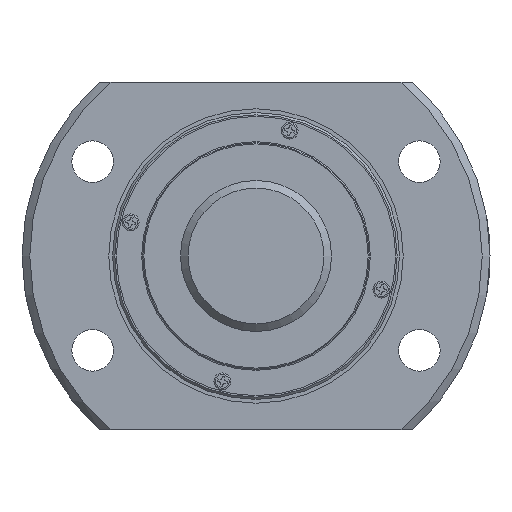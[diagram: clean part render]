
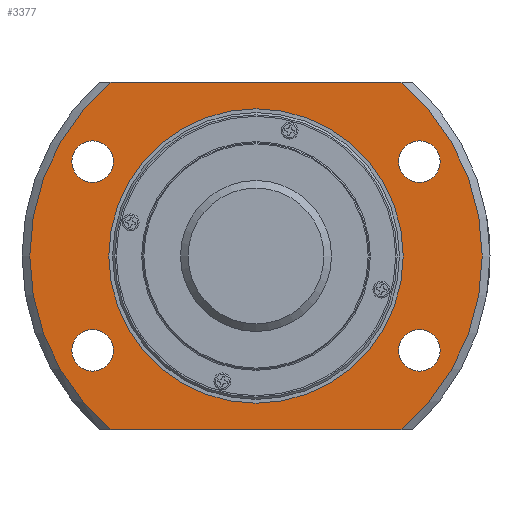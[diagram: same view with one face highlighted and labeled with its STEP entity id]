
A CAD part, left-side view. The second image highlights one B-rep face of the part: STEP entity #3377.
In plain terms, the highlighted planar face has unit normal (-1, 0, 0).
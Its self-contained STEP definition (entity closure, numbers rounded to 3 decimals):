
#37=LINE('',#5080,#365);
#38=LINE('',#5081,#366);
#365=VECTOR('',#4023,1000.);
#366=VECTOR('',#4024,1000.);
#721=PLANE('',#3628);
#887=ORIENTED_EDGE('',*,*,#1823,.T.);
#888=ORIENTED_EDGE('',*,*,#1824,.T.);
#889=ORIENTED_EDGE('',*,*,#1825,.T.);
#890=ORIENTED_EDGE('',*,*,#1826,.T.);
#891=ORIENTED_EDGE('',*,*,#1827,.T.);
#892=ORIENTED_EDGE('',*,*,#1818,.F.);
#893=ORIENTED_EDGE('',*,*,#1828,.T.);
#894=ORIENTED_EDGE('',*,*,#1821,.F.);
#895=ORIENTED_EDGE('',*,*,#1829,.T.);
#1818=EDGE_CURVE('',#2286,#2287,#2617,.T.);
#1821=EDGE_CURVE('',#2288,#2289,#2618,.T.);
#1823=EDGE_CURVE('',#2290,#2290,#2619,.T.);
#1824=EDGE_CURVE('',#2291,#2291,#2620,.T.);
#1825=EDGE_CURVE('',#2292,#2292,#2621,.T.);
#1826=EDGE_CURVE('',#2293,#2293,#2622,.T.);
#1827=EDGE_CURVE('',#2294,#2294,#2623,.T.);
#1828=EDGE_CURVE('',#2286,#2289,#37,.T.);
#1829=EDGE_CURVE('',#2288,#2287,#38,.T.);
#2286=VERTEX_POINT('',#5050);
#2287=VERTEX_POINT('',#5052);
#2288=VERTEX_POINT('',#5062);
#2289=VERTEX_POINT('',#5064);
#2290=VERTEX_POINT('',#5071);
#2291=VERTEX_POINT('',#5073);
#2292=VERTEX_POINT('',#5075);
#2293=VERTEX_POINT('',#5077);
#2294=VERTEX_POINT('',#5079);
#2617=CIRCLE('',#3625,29.967);
#2618=CIRCLE('',#3627,29.967);
#2619=CIRCLE('',#3629,19.5);
#2620=CIRCLE('',#3630,2.75);
#2621=CIRCLE('',#3631,2.75);
#2622=CIRCLE('',#3632,2.75);
#2623=CIRCLE('',#3633,2.75);
#2759=EDGE_LOOP('',(#887));
#2760=EDGE_LOOP('',(#888));
#2761=EDGE_LOOP('',(#889));
#2762=EDGE_LOOP('',(#890));
#2763=EDGE_LOOP('',(#891));
#2764=EDGE_LOOP('',(#892,#893,#894,#895));
#3043=FACE_BOUND('',#2759,.T.);
#3044=FACE_BOUND('',#2760,.T.);
#3045=FACE_BOUND('',#2761,.T.);
#3046=FACE_BOUND('',#2762,.T.);
#3047=FACE_BOUND('',#2763,.T.);
#3048=FACE_BOUND('',#2764,.T.);
#3377=ADVANCED_FACE('',(#3043,#3044,#3045,#3046,#3047,#3048),#721,.T.);
#3625=AXIS2_PLACEMENT_3D('',#5051,#4005,#4006);
#3627=AXIS2_PLACEMENT_3D('',#5063,#4009,#4010);
#3628=AXIS2_PLACEMENT_3D('',#5069,#4011,#4012);
#3629=AXIS2_PLACEMENT_3D('',#5070,#4013,#4014);
#3630=AXIS2_PLACEMENT_3D('',#5072,#4015,#4016);
#3631=AXIS2_PLACEMENT_3D('',#5074,#4017,#4018);
#3632=AXIS2_PLACEMENT_3D('',#5076,#4019,#4020);
#3633=AXIS2_PLACEMENT_3D('',#5078,#4021,#4022);
#4005=DIRECTION('',(1.,0.,0.));
#4006=DIRECTION('',(0.,0.,-1.));
#4009=DIRECTION('',(1.,0.,0.));
#4010=DIRECTION('',(0.,0.,-1.));
#4011=DIRECTION('',(-1.,0.,0.));
#4012=DIRECTION('',(0.,0.,1.));
#4013=DIRECTION('',(1.,0.,0.));
#4014=DIRECTION('',(0.,0.,-1.));
#4015=DIRECTION('',(1.,0.,0.));
#4016=DIRECTION('',(0.,0.,-1.));
#4017=DIRECTION('',(1.,0.,0.));
#4018=DIRECTION('',(0.,0.,-1.));
#4019=DIRECTION('',(1.,0.,0.));
#4020=DIRECTION('',(0.,0.,-1.));
#4021=DIRECTION('',(1.,0.,0.));
#4022=DIRECTION('',(0.,0.,-1.));
#4023=DIRECTION('',(0.,1.,0.));
#4024=DIRECTION('',(0.,-1.,0.));
#5050=CARTESIAN_POINT('',(7.5,-19.209,23.));
#5051=CARTESIAN_POINT('',(7.5,0.,0.));
#5052=CARTESIAN_POINT('',(7.5,-19.209,-23.));
#5062=CARTESIAN_POINT('',(7.5,19.209,-23.));
#5063=CARTESIAN_POINT('',(7.5,0.,0.));
#5064=CARTESIAN_POINT('',(7.5,19.209,23.));
#5069=CARTESIAN_POINT('',(7.5,29.967,0.));
#5070=CARTESIAN_POINT('',(7.5,0.,0.));
#5071=CARTESIAN_POINT('',(7.5,0.,-19.5));
#5072=CARTESIAN_POINT('',(7.5,-21.651,12.5));
#5073=CARTESIAN_POINT('',(7.5,-21.651,9.75));
#5074=CARTESIAN_POINT('',(7.5,21.651,-12.5));
#5075=CARTESIAN_POINT('',(7.5,21.651,-15.25));
#5076=CARTESIAN_POINT('',(7.5,-21.651,-12.5));
#5077=CARTESIAN_POINT('',(7.5,-21.651,-15.25));
#5078=CARTESIAN_POINT('',(7.5,21.651,12.5));
#5079=CARTESIAN_POINT('',(7.5,21.651,9.75));
#5080=CARTESIAN_POINT('',(7.5,29.967,23.));
#5081=CARTESIAN_POINT('',(7.5,29.967,-23.));
